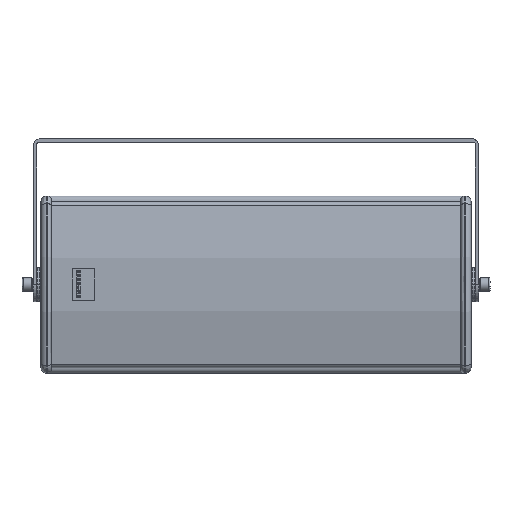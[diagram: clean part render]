
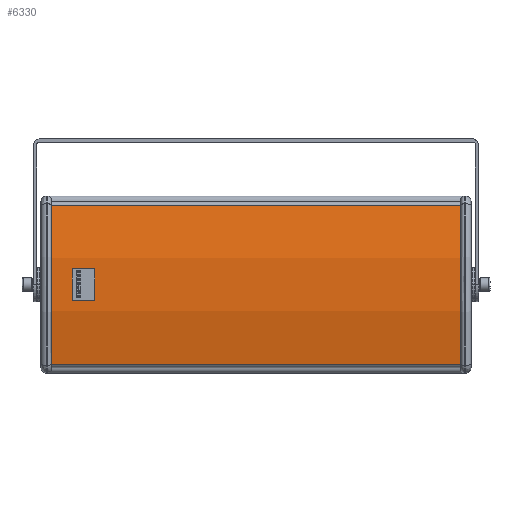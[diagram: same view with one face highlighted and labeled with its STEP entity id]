
A CAD part, top view. The second image highlights one B-rep face of the part: STEP entity #6330.
In plain terms, the highlighted cylindrical face has radius 400.537 mm (diameter 801.074 mm), a partial arc.
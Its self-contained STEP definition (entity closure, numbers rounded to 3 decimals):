
#6320 = ORIENTED_EDGE ( 'NONE', *, *, #6321, .F. ) ;
#6321 = EDGE_CURVE ( 'NONE', #6326, #6333, #16144, .T. ) ;
#6322 = VERTEX_POINT ( 'NONE', #16139 ) ;
#6325 = ORIENTED_EDGE ( 'NONE', *, *, #6328, .T. ) ;
#6326 = VERTEX_POINT ( 'NONE', #16196 ) ;
#6328 = EDGE_CURVE ( 'NONE', #6326, #6338, #16195, .T. ) ;
#6329 = EDGE_CURVE ( 'NONE', #6338, #6322, #16191, .T. ) ;
#6330 = ADVANCED_FACE ( 'NONE', ( #16186 ), #16185, .T. ) ;
#6332 = ORIENTED_EDGE ( 'NONE', *, *, #6329, .T. ) ;
#6333 = VERTEX_POINT ( 'NONE', #16183 ) ;
#6334 = EDGE_LOOP ( 'NONE', ( #6332, #6335, #6320, #6325 ) ) ;
#6335 = ORIENTED_EDGE ( 'NONE', *, *, #6336, .F. ) ;
#6336 = EDGE_CURVE ( 'NONE', #6333, #6322, #16179, .T. ) ;
#6338 = VERTEX_POINT ( 'NONE', #16171 ) ;
#16139 = CARTESIAN_POINT ( 'NONE',  ( 34.533, 17.06, -199.236 ) ) ;
#16140 = DIRECTION ( 'NONE',  ( 0., 0., -1. ) ) ;
#16141 = DIRECTION ( 'NONE',  ( 1., 0., 0. ) ) ;
#16142 = CARTESIAN_POINT ( 'NONE',  ( 520.533, 406.382, -105.12 ) ) ;
#16143 = AXIS2_PLACEMENT_3D ( 'NONE', #16142, #16141, #16140 ) ;
#16144 = CIRCLE ( 'NONE', #16143, 400.537 ) ;
#16171 = CARTESIAN_POINT ( 'NONE',  ( 34.533, 17.115, -10.776 ) ) ;
#16176 = DIRECTION ( 'NONE',  ( -1., 0., 0. ) ) ;
#16177 = VECTOR ( 'NONE', #16176, 1000. ) ;
#16178 = CARTESIAN_POINT ( 'NONE',  ( 34.533, 17.06, -199.236 ) ) ;
#16179 = LINE ( 'NONE', #16178, #16177 ) ;
#16180 = DIRECTION ( 'NONE',  ( 0., 0., -1. ) ) ;
#16181 = DIRECTION ( 'NONE',  ( 1., 0., 0. ) ) ;
#16182 = AXIS2_PLACEMENT_3D ( 'NONE', #16184, #16181, #16180 ) ;
#16183 = CARTESIAN_POINT ( 'NONE',  ( 520.533, 17.06, -199.236 ) ) ;
#16184 = CARTESIAN_POINT ( 'NONE',  ( 34.533, 406.382, -105.12 ) ) ;
#16185 = CYLINDRICAL_SURFACE ( 'NONE', #16182, 400.537 ) ;
#16186 = FACE_OUTER_BOUND ( 'NONE', #6334, .T. ) ;
#16187 = DIRECTION ( 'NONE',  ( 0., 0., -1. ) ) ;
#16188 = DIRECTION ( 'NONE',  ( 1., 0., 0. ) ) ;
#16189 = CARTESIAN_POINT ( 'NONE',  ( 34.533, 406.382, -105.12 ) ) ;
#16190 = AXIS2_PLACEMENT_3D ( 'NONE', #16189, #16188, #16187 ) ;
#16191 = CIRCLE ( 'NONE', #16190, 400.537 ) ;
#16192 = DIRECTION ( 'NONE',  ( -1., 0., 0. ) ) ;
#16193 = VECTOR ( 'NONE', #16192, 1000. ) ;
#16194 = CARTESIAN_POINT ( 'NONE',  ( 34.533, 17.115, -10.776 ) ) ;
#16195 = LINE ( 'NONE', #16194, #16193 ) ;
#16196 = CARTESIAN_POINT ( 'NONE',  ( 520.533, 17.115, -10.776 ) ) ;
